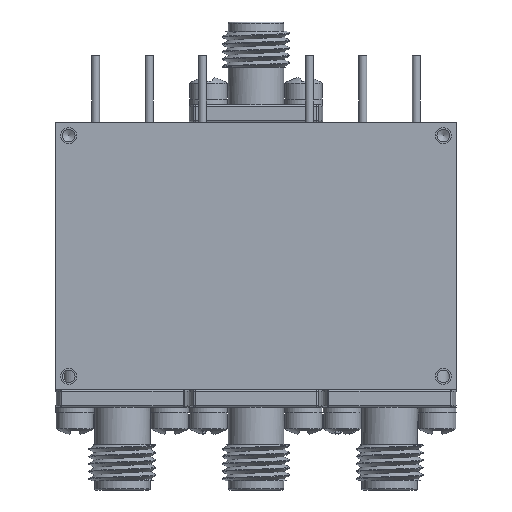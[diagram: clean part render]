
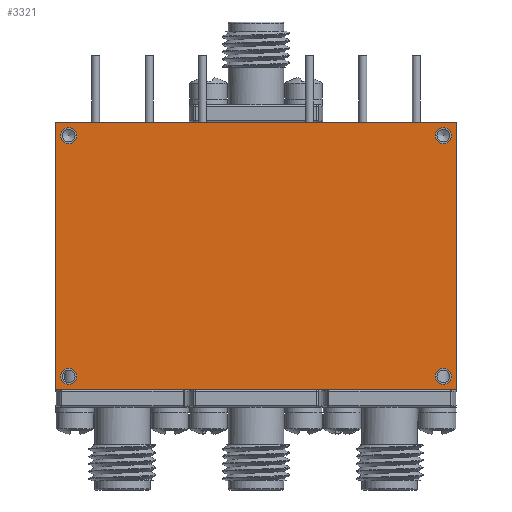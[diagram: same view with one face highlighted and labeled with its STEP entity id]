
A CAD part, front view. The second image highlights one B-rep face of the part: STEP entity #3321.
In plain terms, the highlighted planar face has unit normal (0, -1, 0).
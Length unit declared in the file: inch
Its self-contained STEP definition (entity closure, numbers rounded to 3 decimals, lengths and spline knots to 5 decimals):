
#2133 = VERTEX_POINT ( 'NONE', #4893 ) ;
#2236 = EDGE_LOOP ( 'NONE', ( #49949 ) ) ;
#3166 = CARTESIAN_POINT ( 'NONE',  ( -0.75, -0.394, 0.5 ) ) ;
#3321 = ADVANCED_FACE ( 'NONE', ( #21293, #16094, #11228, #11506, #7152 ), #42314, .F. ) ;
#4857 = AXIS2_PLACEMENT_3D ( 'NONE', #54827, #23772, #15383 ) ;
#4893 = CARTESIAN_POINT ( 'NONE',  ( 0.75, -0.394, -0.5 ) ) ;
#5353 = VERTEX_POINT ( 'NONE', #30385 ) ;
#7152 = FACE_OUTER_BOUND ( 'NONE', #27276, .T. ) ;
#7648 = EDGE_CURVE ( 'NONE', #48471, #48471, #11641, .T. ) ;
#8033 = EDGE_LOOP ( 'NONE', ( #27720 ) ) ;
#8315 = DIRECTION ( 'NONE',  ( 0., 1., 0. ) ) ;
#11228 = FACE_BOUND ( 'NONE', #2236, .T. ) ;
#11506 = FACE_BOUND ( 'NONE', #43737, .T. ) ;
#11641 = CIRCLE ( 'NONE', #42921, 0.03 ) ;
#12874 = EDGE_CURVE ( 'NONE', #33227, #33227, #52271, .T. ) ;
#13028 = DIRECTION ( 'NONE',  ( -1., 0., 0. ) ) ;
#13201 = DIRECTION ( 'NONE',  ( 0., -1., 0. ) ) ;
#13207 = CIRCLE ( 'NONE', #4857, 0.03 ) ;
#14418 = CARTESIAN_POINT ( 'NONE',  ( 0.75, -0.394, -0.5 ) ) ;
#15383 = DIRECTION ( 'NONE',  ( 0., 0., -1. ) ) ;
#15476 = ORIENTED_EDGE ( 'NONE', *, *, #28141, .F. ) ;
#15612 = CARTESIAN_POINT ( 'NONE',  ( 0.7, -0.394, 0.42 ) ) ;
#15824 = EDGE_CURVE ( 'NONE', #16420, #5353, #36275, .T. ) ;
#16094 = FACE_BOUND ( 'NONE', #8033, .T. ) ;
#16420 = VERTEX_POINT ( 'NONE', #3166 ) ;
#17504 = CARTESIAN_POINT ( 'NONE',  ( -0.75, -0.394, -0.5 ) ) ;
#17608 = AXIS2_PLACEMENT_3D ( 'NONE', #34861, #8315, #48065 ) ;
#18446 = LINE ( 'NONE', #14418, #27043 ) ;
#20374 = DIRECTION ( 'NONE',  ( 0., -1., 0. ) ) ;
#21039 = VERTEX_POINT ( 'NONE', #37992 ) ;
#21293 = FACE_BOUND ( 'NONE', #39418, .T. ) ;
#22528 = VECTOR ( 'NONE', #30786, 39.37008 ) ;
#23772 = DIRECTION ( 'NONE',  ( 0., -1., 0. ) ) ;
#24873 = ORIENTED_EDGE ( 'NONE', *, *, #12874, .F. ) ;
#26993 = DIRECTION ( 'NONE',  ( 0., -1., 0. ) ) ;
#26996 = VECTOR ( 'NONE', #13028, 39.37008 ) ;
#27043 = VECTOR ( 'NONE', #36041, 39.37008 ) ;
#27276 = EDGE_LOOP ( 'NONE', ( #50415, #15476, #43037, #53104 ) ) ;
#27355 = CARTESIAN_POINT ( 'NONE',  ( -0.75, -0.394, 0.5 ) ) ;
#27720 = ORIENTED_EDGE ( 'NONE', *, *, #30256, .F. ) ;
#28141 = EDGE_CURVE ( 'NONE', #2133, #21039, #34936, .T. ) ;
#28295 = VECTOR ( 'NONE', #45112, 39.37008 ) ;
#30256 = EDGE_CURVE ( 'NONE', #35489, #35489, #52826, .T. ) ;
#30323 = EDGE_CURVE ( 'NONE', #21039, #16420, #53180, .T. ) ;
#30385 = CARTESIAN_POINT ( 'NONE',  ( 0.75, -0.394, 0.5 ) ) ;
#30786 = DIRECTION ( 'NONE',  ( 0., 0., 1. ) ) ;
#31179 = CARTESIAN_POINT ( 'NONE',  ( -0.7, -0.394, -0.48 ) ) ;
#33227 = VERTEX_POINT ( 'NONE', #15612 ) ;
#33390 = CARTESIAN_POINT ( 'NONE',  ( 0.7, -0.394, 0.45 ) ) ;
#34861 = CARTESIAN_POINT ( 'NONE',  ( 0., -0.394, 0. ) ) ;
#34936 = LINE ( 'NONE', #43798, #26996 ) ;
#35489 = VERTEX_POINT ( 'NONE', #31179 ) ;
#36041 = DIRECTION ( 'NONE',  ( 0., 0., -1. ) ) ;
#36275 = LINE ( 'NONE', #27355, #28295 ) ;
#37992 = CARTESIAN_POINT ( 'NONE',  ( -0.75, -0.394, -0.5 ) ) ;
#38862 = CARTESIAN_POINT ( 'NONE',  ( -0.7, -0.394, -0.45 ) ) ;
#39391 = CARTESIAN_POINT ( 'NONE',  ( -0.7, -0.394, 0.45 ) ) ;
#39418 = EDGE_LOOP ( 'NONE', ( #56060 ) ) ;
#42314 = PLANE ( 'NONE',  #17608 ) ;
#42921 = AXIS2_PLACEMENT_3D ( 'NONE', #39391, #26993, #48260 ) ;
#43037 = ORIENTED_EDGE ( 'NONE', *, *, #56666, .F. ) ;
#43687 = DIRECTION ( 'NONE',  ( 0., 0., -1. ) ) ;
#43737 = EDGE_LOOP ( 'NONE', ( #24873 ) ) ;
#43798 = CARTESIAN_POINT ( 'NONE',  ( -0.75, -0.394, -0.5 ) ) ;
#45112 = DIRECTION ( 'NONE',  ( 1., 0., 0. ) ) ;
#45626 = VERTEX_POINT ( 'NONE', #46496 ) ;
#46496 = CARTESIAN_POINT ( 'NONE',  ( 0.7, -0.394, -0.48 ) ) ;
#48065 = DIRECTION ( 'NONE',  ( 0., 0., 1. ) ) ;
#48260 = DIRECTION ( 'NONE',  ( 0., 0., -1. ) ) ;
#48471 = VERTEX_POINT ( 'NONE', #48763 ) ;
#48550 = AXIS2_PLACEMENT_3D ( 'NONE', #33390, #20374, #50898 ) ;
#48763 = CARTESIAN_POINT ( 'NONE',  ( -0.7, -0.394, 0.42 ) ) ;
#49949 = ORIENTED_EDGE ( 'NONE', *, *, #7648, .F. ) ;
#50060 = AXIS2_PLACEMENT_3D ( 'NONE', #38862, #13201, #43687 ) ;
#50415 = ORIENTED_EDGE ( 'NONE', *, *, #30323, .F. ) ;
#50898 = DIRECTION ( 'NONE',  ( 0., 0., -1. ) ) ;
#52271 = CIRCLE ( 'NONE', #48550, 0.03 ) ;
#52826 = CIRCLE ( 'NONE', #50060, 0.03 ) ;
#53104 = ORIENTED_EDGE ( 'NONE', *, *, #15824, .F. ) ;
#53180 = LINE ( 'NONE', #17504, #22528 ) ;
#54827 = CARTESIAN_POINT ( 'NONE',  ( 0.7, -0.394, -0.45 ) ) ;
#56060 = ORIENTED_EDGE ( 'NONE', *, *, #56317, .F. ) ;
#56317 = EDGE_CURVE ( 'NONE', #45626, #45626, #13207, .T. ) ;
#56666 = EDGE_CURVE ( 'NONE', #5353, #2133, #18446, .T. ) ;
